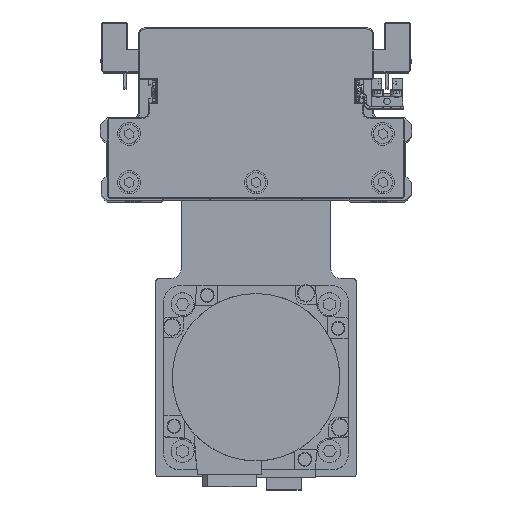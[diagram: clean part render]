
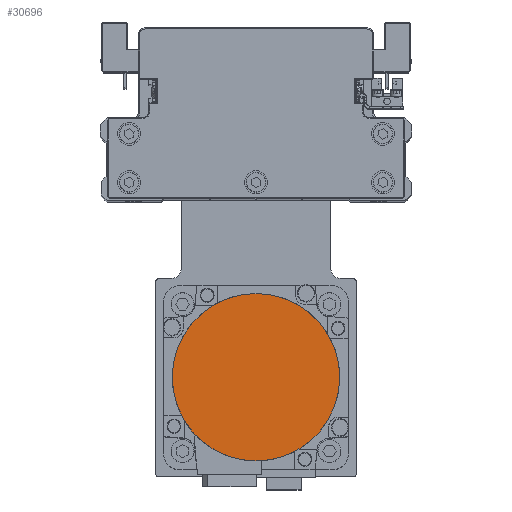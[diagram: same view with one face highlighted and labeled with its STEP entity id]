
A CAD part, top view. The second image highlights one B-rep face of the part: STEP entity #30696.
In plain terms, the highlighted planar face has unit normal (0, 0, 1) as drawn and (0, 0, -1) by its records, which use the part's own axes.
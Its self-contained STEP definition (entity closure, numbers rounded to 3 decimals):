
#1309 = AXIS2_PLACEMENT_3D ( 'NONE', #35324, #8036, #20123 ) ;
#7689 = DIRECTION ( 'NONE',  ( 0., 0., 1. ) ) ;
#8036 = DIRECTION ( 'NONE',  ( 0., 0., 1. ) ) ;
#10277 = CARTESIAN_POINT ( 'NONE',  ( 0., 0., -122.2 ) ) ;
#11000 = FACE_OUTER_BOUND ( 'NONE', #28073, .T. ) ;
#12298 = VERTEX_POINT ( 'NONE', #19421 ) ;
#12643 = CIRCLE ( 'NONE', #34921, 36.3 ) ;
#12811 = EDGE_CURVE ( 'NONE', #24860, #12298, #12643, .T. ) ;
#13379 = AXIS2_PLACEMENT_3D ( 'NONE', #10277, #22393, #34570 ) ;
#19421 = CARTESIAN_POINT ( 'NONE',  ( 0., -36.3, -122.2 ) ) ;
#19765 = DIRECTION ( 'NONE',  ( 0., 1., 0. ) ) ;
#20123 = DIRECTION ( 'NONE',  ( 1., 0., 0. ) ) ;
#22393 = DIRECTION ( 'NONE',  ( 0., 0., 1. ) ) ;
#23121 = PLANE ( 'NONE',  #1309 ) ;
#24860 = VERTEX_POINT ( 'NONE', #32474 ) ;
#25281 = ORIENTED_EDGE ( 'NONE', *, *, #36264, .F. ) ;
#28073 = EDGE_LOOP ( 'NONE', ( #34932, #25281 ) ) ;
#30540 = CIRCLE ( 'NONE', #13379, 36.3 ) ;
#30696 = ADVANCED_FACE ( 'NONE', ( #11000 ), #23121, .F. ) ;
#32474 = CARTESIAN_POINT ( 'NONE',  ( 0., 36.3, -122.2 ) ) ;
#34570 = DIRECTION ( 'NONE',  ( 0., -1., 0. ) ) ;
#34921 = AXIS2_PLACEMENT_3D ( 'NONE', #34969, #7689, #19765 ) ;
#34932 = ORIENTED_EDGE ( 'NONE', *, *, #12811, .F. ) ;
#34969 = CARTESIAN_POINT ( 'NONE',  ( 0., 0., -122.2 ) ) ;
#35324 = CARTESIAN_POINT ( 'NONE',  ( 0., 0., -122.2 ) ) ;
#36264 = EDGE_CURVE ( 'NONE', #12298, #24860, #30540, .T. ) ;
